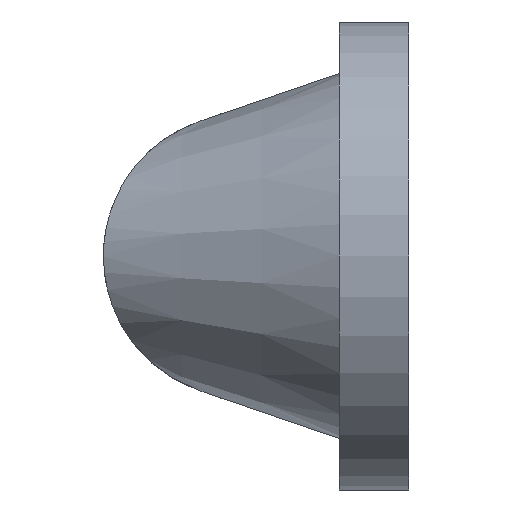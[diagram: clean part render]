
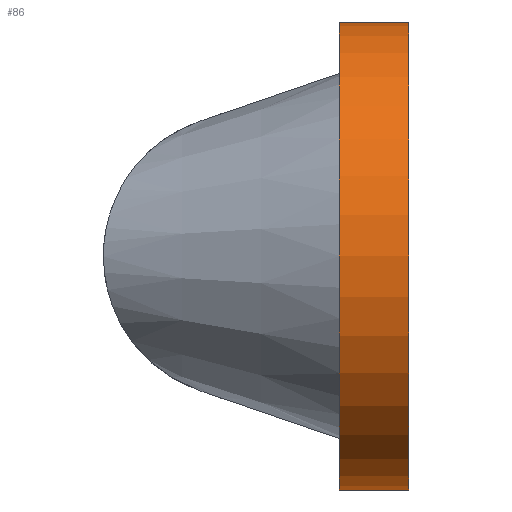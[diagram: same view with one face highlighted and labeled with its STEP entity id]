
A CAD part, left-side view. The second image highlights one B-rep face of the part: STEP entity #86.
In plain terms, the highlighted cylindrical face has radius 11.5 mm (diameter 23 mm), a partial arc.
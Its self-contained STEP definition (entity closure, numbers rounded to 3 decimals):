
#86 = ADVANCED_FACE ( 'NONE', ( #435 ), #288, .T. ) ;
#97 = DIRECTION ( 'NONE',  ( 0., -1., 0. ) ) ;
#110 = ORIENTED_EDGE ( 'NONE', *, *, #192, .F. ) ;
#115 = DIRECTION ( 'NONE',  ( 0., 1., 0. ) ) ;
#116 = EDGE_LOOP ( 'NONE', ( #477, #196, #560, #110 ) ) ;
#149 = VERTEX_POINT ( 'NONE', #267 ) ;
#152 = DIRECTION ( 'NONE',  ( 0., 1., 0. ) ) ;
#177 = VERTEX_POINT ( 'NONE', #509 ) ;
#192 = EDGE_CURVE ( 'NONE', #177, #538, #251, .T. ) ;
#196 = ORIENTED_EDGE ( 'NONE', *, *, #334, .T. ) ;
#218 = AXIS2_PLACEMENT_3D ( 'NONE', #620, #274, #422 ) ;
#251 = CIRCLE ( 'NONE', #218, 11.5 ) ;
#256 = CARTESIAN_POINT ( 'NONE',  ( -25.5, -1., 0. ) ) ;
#267 = CARTESIAN_POINT ( 'NONE',  ( -25.5, 2.4, 11.5 ) ) ;
#268 = LINE ( 'NONE', #437, #284 ) ;
#274 = DIRECTION ( 'NONE',  ( 0., -1., 0. ) ) ;
#284 = VECTOR ( 'NONE', #152, 1000. ) ;
#288 = CYLINDRICAL_SURFACE ( 'NONE', #410, 11.5 ) ;
#302 = CARTESIAN_POINT ( 'NONE',  ( -25.5, -1., -11.5 ) ) ;
#322 = EDGE_CURVE ( 'NONE', #177, #149, #464, .T. ) ;
#334 = EDGE_CURVE ( 'NONE', #149, #465, #430, .T. ) ;
#379 = AXIS2_PLACEMENT_3D ( 'NONE', #388, #97, #432 ) ;
#384 = CARTESIAN_POINT ( 'NONE',  ( -25.5, -1., 11.5 ) ) ;
#386 = EDGE_CURVE ( 'NONE', #538, #465, #268, .T. ) ;
#388 = CARTESIAN_POINT ( 'NONE',  ( -25.5, 2.4, 0. ) ) ;
#410 = AXIS2_PLACEMENT_3D ( 'NONE', #256, #115, #542 ) ;
#422 = DIRECTION ( 'NONE',  ( 0., 0., 1. ) ) ;
#430 = CIRCLE ( 'NONE', #379, 11.5 ) ;
#432 = DIRECTION ( 'NONE',  ( 0., 0., 1. ) ) ;
#435 = FACE_OUTER_BOUND ( 'NONE', #116, .T. ) ;
#437 = CARTESIAN_POINT ( 'NONE',  ( -25.5, -1., -11.5 ) ) ;
#464 = LINE ( 'NONE', #384, #561 ) ;
#465 = VERTEX_POINT ( 'NONE', #494 ) ;
#477 = ORIENTED_EDGE ( 'NONE', *, *, #322, .T. ) ;
#494 = CARTESIAN_POINT ( 'NONE',  ( -25.5, 2.4, -11.5 ) ) ;
#509 = CARTESIAN_POINT ( 'NONE',  ( -25.5, -1., 11.5 ) ) ;
#525 = DIRECTION ( 'NONE',  ( 0., 1., 0. ) ) ;
#538 = VERTEX_POINT ( 'NONE', #302 ) ;
#542 = DIRECTION ( 'NONE',  ( 0., 0., 1. ) ) ;
#560 = ORIENTED_EDGE ( 'NONE', *, *, #386, .F. ) ;
#561 = VECTOR ( 'NONE', #525, 1000. ) ;
#620 = CARTESIAN_POINT ( 'NONE',  ( -25.5, -1., 0. ) ) ;
